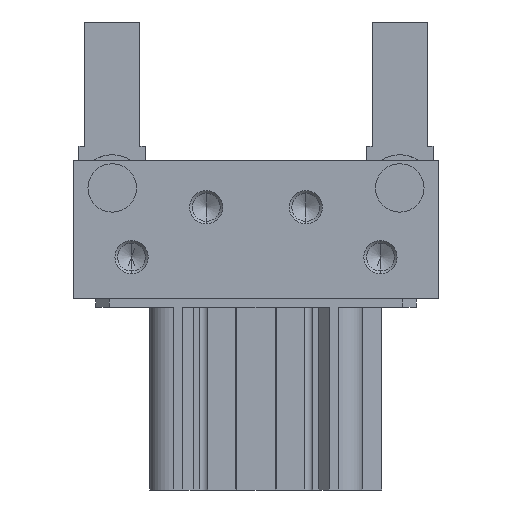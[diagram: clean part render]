
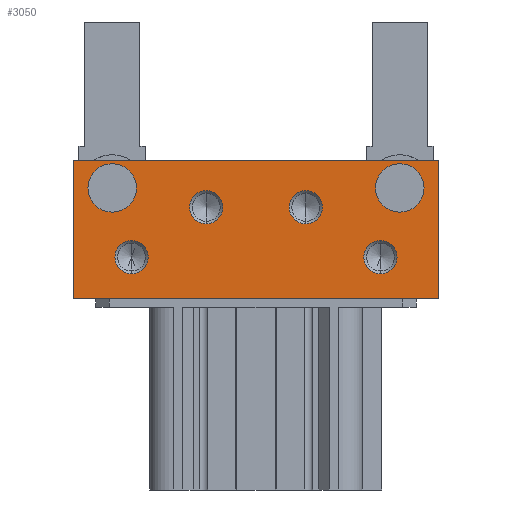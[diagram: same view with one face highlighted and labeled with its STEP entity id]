
A CAD part, front view. The second image highlights one B-rep face of the part: STEP entity #3050.
In plain terms, the highlighted planar face has unit normal (0, -1, 0).
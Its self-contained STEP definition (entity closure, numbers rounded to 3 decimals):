
#35 = CARTESIAN_POINT ( 'NONE',  ( -45., -40., 84.2 ) ) ;
#90 = CIRCLE ( 'NONE', #1762, 8.75 ) ;
#108 = VERTEX_POINT ( 'NONE', #3374 ) ;
#215 = DIRECTION ( 'NONE',  ( 0., 1., 0. ) ) ;
#252 = DIRECTION ( 'NONE',  ( 0., 0., 1. ) ) ;
#253 = AXIS2_PLACEMENT_3D ( 'NONE', #3167, #558, #3211 ) ;
#274 = VERTEX_POINT ( 'NONE', #5084 ) ;
#275 = CIRCLE ( 'NONE', #1397, 6. ) ;
#308 = VERTEX_POINT ( 'NONE', #3139 ) ;
#432 = ORIENTED_EDGE ( 'NONE', *, *, #8087, .T. ) ;
#438 = CARTESIAN_POINT ( 'NONE',  ( -45., -40., 78.2 ) ) ;
#472 = ORIENTED_EDGE ( 'NONE', *, *, #7191, .T. ) ;
#494 = CARTESIAN_POINT ( 'NONE',  ( 18., -40., 102.2 ) ) ;
#505 = CARTESIAN_POINT ( 'NONE',  ( -52., -40., 109.2 ) ) ;
#533 = ORIENTED_EDGE ( 'NONE', *, *, #3365, .T. ) ;
#558 = DIRECTION ( 'NONE',  ( 0., 1., 0. ) ) ;
#591 = EDGE_CURVE ( 'NONE', #4012, #8264, #275, .T. ) ;
#595 = CARTESIAN_POINT ( 'NONE',  ( -66., -40., 69.2 ) ) ;
#637 = EDGE_LOOP ( 'NONE', ( #1933, #533 ) ) ;
#992 = DIRECTION ( 'NONE',  ( 0., 0., 1. ) ) ;
#996 = VERTEX_POINT ( 'NONE', #8104 ) ;
#1061 = ORIENTED_EDGE ( 'NONE', *, *, #8194, .T. ) ;
#1085 = CARTESIAN_POINT ( 'NONE',  ( -45., -40., 84.2 ) ) ;
#1164 = CARTESIAN_POINT ( 'NONE',  ( -52., -40., 117.95 ) ) ;
#1248 = VECTOR ( 'NONE', #4177, 1000. ) ;
#1287 = ORIENTED_EDGE ( 'NONE', *, *, #4886, .T. ) ;
#1357 = CIRCLE ( 'NONE', #2736, 6. ) ;
#1388 = PLANE ( 'NONE',  #5501 ) ;
#1397 = AXIS2_PLACEMENT_3D ( 'NONE', #3568, #8161, #252 ) ;
#1405 = CARTESIAN_POINT ( 'NONE',  ( 45., -40., 84.2 ) ) ;
#1534 = DIRECTION ( 'NONE',  ( 0., 0., 1. ) ) ;
#1762 = AXIS2_PLACEMENT_3D ( 'NONE', #6645, #5956, #6039 ) ;
#1916 = CARTESIAN_POINT ( 'NONE',  ( -18., -40., 102.2 ) ) ;
#1923 = VECTOR ( 'NONE', #6543, 1000. ) ;
#1933 = ORIENTED_EDGE ( 'NONE', *, *, #2637, .T. ) ;
#1953 = LINE ( 'NONE', #595, #1923 ) ;
#1968 = VERTEX_POINT ( 'NONE', #5699 ) ;
#2000 = DIRECTION ( 'NONE',  ( 0., 1., 0. ) ) ;
#2003 = FACE_BOUND ( 'NONE', #5857, .T. ) ;
#2231 = CARTESIAN_POINT ( 'NONE',  ( 52., -40., 109.2 ) ) ;
#2250 = EDGE_CURVE ( 'NONE', #3961, #4182, #1357, .T. ) ;
#2257 = CARTESIAN_POINT ( 'NONE',  ( 45., -40., 90.2 ) ) ;
#2487 = CARTESIAN_POINT ( 'NONE',  ( -66., -40., 69.2 ) ) ;
#2502 = DIRECTION ( 'NONE',  ( 0., 1., 0. ) ) ;
#2619 = DIRECTION ( 'NONE',  ( 0., 1., 0. ) ) ;
#2637 = EDGE_CURVE ( 'NONE', #4275, #6445, #90, .T. ) ;
#2665 = EDGE_LOOP ( 'NONE', ( #7702, #6763 ) ) ;
#2736 = AXIS2_PLACEMENT_3D ( 'NONE', #1405, #4655, #7298 ) ;
#2912 = LINE ( 'NONE', #6085, #1248 ) ;
#3050 = ADVANCED_FACE ( 'NONE', ( #6591, #8019, #5293, #2003, #8059, #6109, #4077 ), #1388, .F. ) ;
#3070 = CARTESIAN_POINT ( 'NONE',  ( -66., -40., 119.2 ) ) ;
#3087 = EDGE_LOOP ( 'NONE', ( #1287, #4060 ) ) ;
#3139 = CARTESIAN_POINT ( 'NONE',  ( -45., -40., 90.2 ) ) ;
#3142 = ORIENTED_EDGE ( 'NONE', *, *, #3412, .F. ) ;
#3167 = CARTESIAN_POINT ( 'NONE',  ( 52., -40., 109.2 ) ) ;
#3179 = CIRCLE ( 'NONE', #253, 8.75 ) ;
#3211 = DIRECTION ( 'NONE',  ( 1., 0., 0. ) ) ;
#3236 = CIRCLE ( 'NONE', #7651, 6. ) ;
#3285 = VERTEX_POINT ( 'NONE', #3070 ) ;
#3365 = EDGE_CURVE ( 'NONE', #6445, #4275, #3713, .T. ) ;
#3374 = CARTESIAN_POINT ( 'NONE',  ( 66., -40., 119.2 ) ) ;
#3412 = EDGE_CURVE ( 'NONE', #5969, #3285, #1953, .T. ) ;
#3434 = VERTEX_POINT ( 'NONE', #438 ) ;
#3568 = CARTESIAN_POINT ( 'NONE',  ( 18., -40., 102.2 ) ) ;
#3595 = AXIS2_PLACEMENT_3D ( 'NONE', #35, #2000, #5946 ) ;
#3605 = EDGE_CURVE ( 'NONE', #108, #4129, #5958, .T. ) ;
#3694 = AXIS2_PLACEMENT_3D ( 'NONE', #2231, #8168, #5523 ) ;
#3713 = CIRCLE ( 'NONE', #4956, 8.75 ) ;
#3909 = AXIS2_PLACEMENT_3D ( 'NONE', #1916, #8552, #7942 ) ;
#3934 = ORIENTED_EDGE ( 'NONE', *, *, #5900, .T. ) ;
#3950 = DIRECTION ( 'NONE',  ( 1., 0., 0. ) ) ;
#3961 = VERTEX_POINT ( 'NONE', #2257 ) ;
#4012 = VERTEX_POINT ( 'NONE', #5363 ) ;
#4060 = ORIENTED_EDGE ( 'NONE', *, *, #2250, .T. ) ;
#4077 = FACE_BOUND ( 'NONE', #2665, .T. ) ;
#4129 = VERTEX_POINT ( 'NONE', #5244 ) ;
#4157 = CARTESIAN_POINT ( 'NONE',  ( 18., -40., 96.2 ) ) ;
#4177 = DIRECTION ( 'NONE',  ( 1., 0., 0. ) ) ;
#4182 = VERTEX_POINT ( 'NONE', #4232 ) ;
#4209 = AXIS2_PLACEMENT_3D ( 'NONE', #494, #2502, #8444 ) ;
#4232 = CARTESIAN_POINT ( 'NONE',  ( 45., -40., 78.2 ) ) ;
#4275 = VERTEX_POINT ( 'NONE', #8396 ) ;
#4307 = EDGE_LOOP ( 'NONE', ( #5463, #8251, #6348, #3142 ) ) ;
#4410 = EDGE_CURVE ( 'NONE', #8264, #4012, #7958, .T. ) ;
#4453 = AXIS2_PLACEMENT_3D ( 'NONE', #1085, #6890, #992 ) ;
#4457 = DIRECTION ( 'NONE',  ( 0., 1., 0. ) ) ;
#4567 = CARTESIAN_POINT ( 'NONE',  ( 45., -40., 84.2 ) ) ;
#4590 = CIRCLE ( 'NONE', #5976, 6. ) ;
#4636 = DIRECTION ( 'NONE',  ( 0., 1., 0. ) ) ;
#4655 = DIRECTION ( 'NONE',  ( 0., 1., 0. ) ) ;
#4727 = VECTOR ( 'NONE', #8392, 1000. ) ;
#4735 = CARTESIAN_POINT ( 'NONE',  ( -18., -40., 102.2 ) ) ;
#4833 = CIRCLE ( 'NONE', #3595, 6. ) ;
#4886 = EDGE_CURVE ( 'NONE', #4182, #3961, #3236, .T. ) ;
#4956 = AXIS2_PLACEMENT_3D ( 'NONE', #505, #4457, #6410 ) ;
#5084 = CARTESIAN_POINT ( 'NONE',  ( -18., -40., 96.2 ) ) ;
#5119 = EDGE_LOOP ( 'NONE', ( #472, #1061 ) ) ;
#5224 = EDGE_CURVE ( 'NONE', #308, #3434, #5989, .T. ) ;
#5244 = CARTESIAN_POINT ( 'NONE',  ( 66., -40., 69.2 ) ) ;
#5261 = DIRECTION ( 'NONE',  ( 0., 0., -1. ) ) ;
#5281 = EDGE_CURVE ( 'NONE', #274, #996, #7629, .T. ) ;
#5293 = FACE_BOUND ( 'NONE', #5119, .T. ) ;
#5363 = CARTESIAN_POINT ( 'NONE',  ( 18., -40., 108.2 ) ) ;
#5463 = ORIENTED_EDGE ( 'NONE', *, *, #5597, .F. ) ;
#5501 = AXIS2_PLACEMENT_3D ( 'NONE', #6717, #4636, #3950 ) ;
#5523 = DIRECTION ( 'NONE',  ( 1., 0., 0. ) ) ;
#5597 = EDGE_CURVE ( 'NONE', #4129, #5969, #5746, .T. ) ;
#5699 = CARTESIAN_POINT ( 'NONE',  ( 52., -40., 117.95 ) ) ;
#5746 = LINE ( 'NONE', #7645, #4727 ) ;
#5857 = EDGE_LOOP ( 'NONE', ( #432, #5978 ) ) ;
#5869 = CARTESIAN_POINT ( 'NONE',  ( 66., -40., 119.2 ) ) ;
#5900 = EDGE_CURVE ( 'NONE', #996, #274, #4590, .T. ) ;
#5946 = DIRECTION ( 'NONE',  ( 0., 0., 1. ) ) ;
#5956 = DIRECTION ( 'NONE',  ( 0., 1., 0. ) ) ;
#5958 = LINE ( 'NONE', #5869, #8017 ) ;
#5969 = VERTEX_POINT ( 'NONE', #2487 ) ;
#5976 = AXIS2_PLACEMENT_3D ( 'NONE', #4735, #215, #1534 ) ;
#5978 = ORIENTED_EDGE ( 'NONE', *, *, #5224, .T. ) ;
#5989 = CIRCLE ( 'NONE', #4453, 6. ) ;
#6039 = DIRECTION ( 'NONE',  ( 1., 0., 0. ) ) ;
#6085 = CARTESIAN_POINT ( 'NONE',  ( -66., -40., 119.2 ) ) ;
#6109 = FACE_BOUND ( 'NONE', #7888, .T. ) ;
#6348 = ORIENTED_EDGE ( 'NONE', *, *, #7404, .F. ) ;
#6410 = DIRECTION ( 'NONE',  ( 1., 0., 0. ) ) ;
#6445 = VERTEX_POINT ( 'NONE', #1164 ) ;
#6543 = DIRECTION ( 'NONE',  ( 0., 0., 1. ) ) ;
#6591 = FACE_OUTER_BOUND ( 'NONE', #4307, .T. ) ;
#6645 = CARTESIAN_POINT ( 'NONE',  ( -52., -40., 109.2 ) ) ;
#6717 = CARTESIAN_POINT ( 'NONE',  ( 0., -40., 0. ) ) ;
#6763 = ORIENTED_EDGE ( 'NONE', *, *, #591, .T. ) ;
#6890 = DIRECTION ( 'NONE',  ( 0., 1., 0. ) ) ;
#7191 = EDGE_CURVE ( 'NONE', #7649, #1968, #8550, .T. ) ;
#7212 = DIRECTION ( 'NONE',  ( 0., 0., 1. ) ) ;
#7298 = DIRECTION ( 'NONE',  ( 0., 0., 1. ) ) ;
#7404 = EDGE_CURVE ( 'NONE', #3285, #108, #2912, .T. ) ;
#7629 = CIRCLE ( 'NONE', #3909, 6. ) ;
#7645 = CARTESIAN_POINT ( 'NONE',  ( 66., -40., 69.2 ) ) ;
#7649 = VERTEX_POINT ( 'NONE', #7766 ) ;
#7651 = AXIS2_PLACEMENT_3D ( 'NONE', #4567, #2619, #7212 ) ;
#7702 = ORIENTED_EDGE ( 'NONE', *, *, #4410, .T. ) ;
#7766 = CARTESIAN_POINT ( 'NONE',  ( 52., -40., 100.45 ) ) ;
#7888 = EDGE_LOOP ( 'NONE', ( #8294, #3934 ) ) ;
#7942 = DIRECTION ( 'NONE',  ( 0., 0., 1. ) ) ;
#7958 = CIRCLE ( 'NONE', #4209, 6. ) ;
#8017 = VECTOR ( 'NONE', #5261, 1000. ) ;
#8019 = FACE_BOUND ( 'NONE', #637, .T. ) ;
#8059 = FACE_BOUND ( 'NONE', #3087, .T. ) ;
#8087 = EDGE_CURVE ( 'NONE', #3434, #308, #4833, .T. ) ;
#8104 = CARTESIAN_POINT ( 'NONE',  ( -18., -40., 108.2 ) ) ;
#8161 = DIRECTION ( 'NONE',  ( 0., 1., 0. ) ) ;
#8168 = DIRECTION ( 'NONE',  ( 0., 1., 0. ) ) ;
#8194 = EDGE_CURVE ( 'NONE', #1968, #7649, #3179, .T. ) ;
#8251 = ORIENTED_EDGE ( 'NONE', *, *, #3605, .F. ) ;
#8264 = VERTEX_POINT ( 'NONE', #4157 ) ;
#8294 = ORIENTED_EDGE ( 'NONE', *, *, #5281, .T. ) ;
#8392 = DIRECTION ( 'NONE',  ( -1., 0., 0. ) ) ;
#8396 = CARTESIAN_POINT ( 'NONE',  ( -52., -40., 100.45 ) ) ;
#8444 = DIRECTION ( 'NONE',  ( 0., 0., 1. ) ) ;
#8550 = CIRCLE ( 'NONE', #3694, 8.75 ) ;
#8552 = DIRECTION ( 'NONE',  ( 0., 1., 0. ) ) ;
